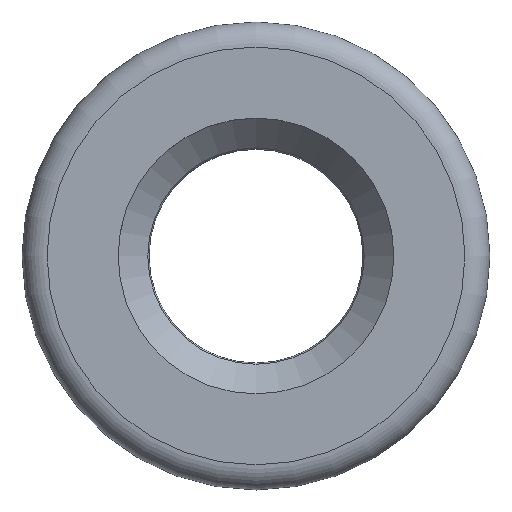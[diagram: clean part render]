
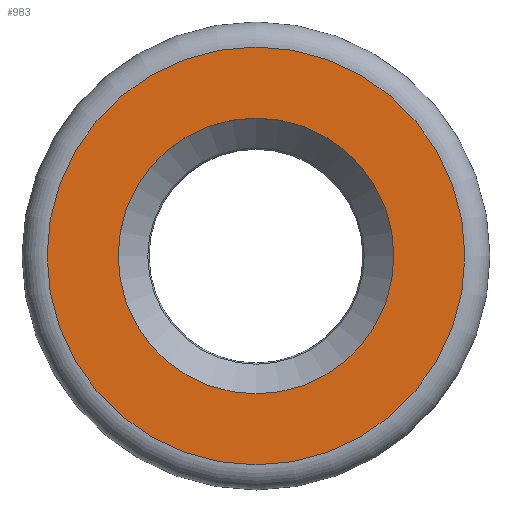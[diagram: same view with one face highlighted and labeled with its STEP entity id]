
A CAD part, top view. The second image highlights one B-rep face of the part: STEP entity #983.
In plain terms, the highlighted planar face has unit normal (0, 0, 1).
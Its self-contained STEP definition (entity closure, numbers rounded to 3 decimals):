
#68=PLANE('',#1126);
#142=FACE_BOUND('',#350,.T.);
#143=FACE_BOUND('',#351,.T.);
#350=EDGE_LOOP('',(#765));
#351=EDGE_LOOP('',(#766));
#461=CIRCLE('',#1127,16.5);
#462=CIRCLE('',#1128,25.);
#544=VERTEX_POINT('',#1685);
#545=VERTEX_POINT('',#1687);
#627=EDGE_CURVE('',#544,#544,#461,.T.);
#628=EDGE_CURVE('',#545,#545,#462,.T.);
#765=ORIENTED_EDGE('',*,*,#627,.T.);
#766=ORIENTED_EDGE('',*,*,#628,.F.);
#983=ADVANCED_FACE('',(#142,#143),#68,.T.);
#1126=AXIS2_PLACEMENT_3D('',#1684,#1407,#1408);
#1127=AXIS2_PLACEMENT_3D('',#1686,#1409,#1410);
#1128=AXIS2_PLACEMENT_3D('',#1688,#1411,#1412);
#1407=DIRECTION('center_axis',(0.,0.,1.));
#1408=DIRECTION('ref_axis',(1.,0.,0.));
#1409=DIRECTION('center_axis',(0.,0.,-1.));
#1410=DIRECTION('ref_axis',(1.,0.,0.));
#1411=DIRECTION('center_axis',(0.,0.,-1.));
#1412=DIRECTION('ref_axis',(1.,0.,0.));
#1684=CARTESIAN_POINT('Origin',(0.,25.,33.5));
#1685=CARTESIAN_POINT('',(0.,16.5,33.5));
#1686=CARTESIAN_POINT('Origin',(0.,0.,33.5));
#1687=CARTESIAN_POINT('',(0.,25.,33.5));
#1688=CARTESIAN_POINT('Origin',(0.,0.,33.5));
